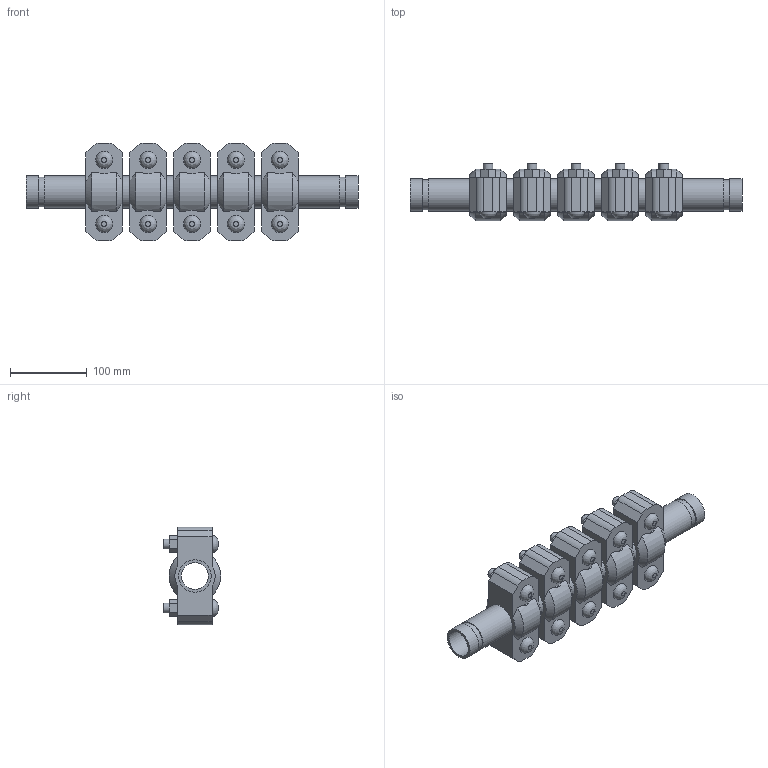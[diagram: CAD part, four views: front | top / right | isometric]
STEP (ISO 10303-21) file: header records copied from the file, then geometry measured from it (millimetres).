
FILE_DESCRIPTION(/* description */ ('VIC EXPANSION JOINT 5 COUPLINGS COMPRESSED STYLE 155 (OGS)','CAx-IF Rec.Pracs.---Representation and Presentation of Product Manufacturing Information (PMI)---4.0---2014-10-13'),/* implementation_level */ '2;1');
FILE_NAME(/* name */ 'C:\Users\kkamble\AppData\Roaming\Autodesk\ApplicationPlugins\Victaulic.Temp\A136\Victaulic_IPS_Expansion Joint_Compressed_5 Couplings_Style 155 (OGS)_1.25 (32).stp',/* time_stamp */ '2021-06-27T00:29:12+02:00',/* author */ ('kkamble'),/* organization */ ('Victaulic'),/* preprocessor_version */ 'ST-DEVELOPER v17.2',/* originating_system */ 'Autodesk Inventor 2019',/* authorisation */ '');
FILE_SCHEMA (('AP242_MANAGED_MODEL_BASED_3D_ENGINEERING_MIM_LF { 1 0 10303 442 1 1 4 }'));
Length unit declared in the file: inch
Products named in the file (4): 155-01.25; Nipple-01.25; Nipple-01.25_1; 077-01.25
Assembly tree (11 placements, depth 2):
  155-01.25
    Nipple-01.25  x2
    Nipple-01.25_1  x4
    077-01.25  x5
Bounding box: 431.8 x 74.93 x 127 mm (x, y, z)
Volume: 1318342.8 mm3; surface area: 318725.1 mm2
Topology: 11 solids, 21 shells, 357 faces, 875 edges, 614 vertices
Faces by surface type: plane 206, cylinder 121, cone 20, bspline 10
Full cylindrical faces by diameter (mm): 12.7 x20, 14.605 x10, 35.052 x6, 38.989 x12, 42.164 x23
Entity records: 2875 total; most frequent: CARTESIAN_POINT 541, DIRECTION 467, ORIENTED_EDGE 398, EDGE_CURVE 199, AXIS2_PLACEMENT_3D 186, VERTEX_POINT 142, EDGE_LOOP 105, LINE 95
